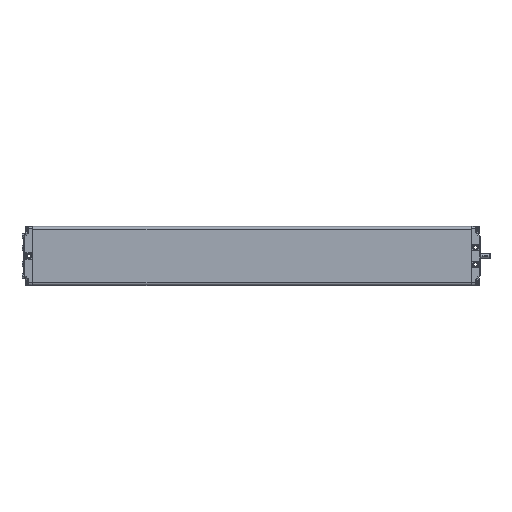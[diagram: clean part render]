
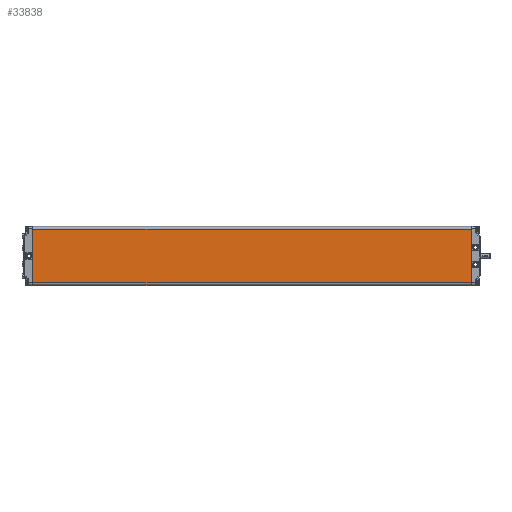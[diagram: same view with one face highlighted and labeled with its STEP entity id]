
A CAD part, top view. The second image highlights one B-rep face of the part: STEP entity #33838.
In plain terms, the highlighted planar face has unit normal (0, 0, 1).
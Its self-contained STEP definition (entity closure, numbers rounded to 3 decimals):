
#3526=LINE('',#72194,#4811);
#3527=LINE('',#72197,#4812);
#3528=LINE('',#72199,#4813);
#3529=LINE('',#72201,#4814);
#4811=VECTOR('',#41052,1000.);
#4812=VECTOR('',#41053,1000.);
#4813=VECTOR('',#41054,1000.);
#4814=VECTOR('',#41055,1000.);
#10108=ORIENTED_EDGE('',*,*,#16173,.T.);
#10109=ORIENTED_EDGE('',*,*,#16174,.T.);
#10110=ORIENTED_EDGE('',*,*,#16175,.T.);
#10111=ORIENTED_EDGE('',*,*,#16176,.T.);
#16173=EDGE_CURVE('',#19431,#19432,#3526,.F.);
#16174=EDGE_CURVE('',#19432,#19433,#3527,.T.);
#16175=EDGE_CURVE('',#19433,#19434,#3528,.T.);
#16176=EDGE_CURVE('',#19434,#19431,#3529,.F.);
#19431=VERTEX_POINT('',#72195);
#19432=VERTEX_POINT('',#72196);
#19433=VERTEX_POINT('',#72198);
#19434=VERTEX_POINT('',#72200);
#22917=EDGE_LOOP('',(#10108,#10109,#10110,#10111));
#24897=FACE_BOUND('',#22917,.T.);
#26031=PLANE('',#36096);
#33838=ADVANCED_FACE('',(#24897),#26031,.T.);
#36096=AXIS2_PLACEMENT_3D('',#72193,#41050,#41051);
#41050=DIRECTION('',(0.,0.,1.));
#41051=DIRECTION('',(1.,0.,0.));
#41052=DIRECTION('',(0.,-1.,0.));
#41053=DIRECTION('',(-1.,0.,0.));
#41054=DIRECTION('',(0.,-1.,0.));
#41055=DIRECTION('',(-1.,0.,0.));
#72193=CARTESIAN_POINT('',(60.,893.5,30.));
#72194=CARTESIAN_POINT('',(54.,893.5,30.));
#72195=CARTESIAN_POINT('',(54.,0.5,30.));
#72196=CARTESIAN_POINT('',(54.,893.,30.));
#72197=CARTESIAN_POINT('',(60.,893.,30.));
#72198=CARTESIAN_POINT('',(-54.,893.,30.));
#72199=CARTESIAN_POINT('',(-54.,893.5,30.));
#72200=CARTESIAN_POINT('',(-54.,0.5,30.));
#72201=CARTESIAN_POINT('',(54.,0.5,30.));
